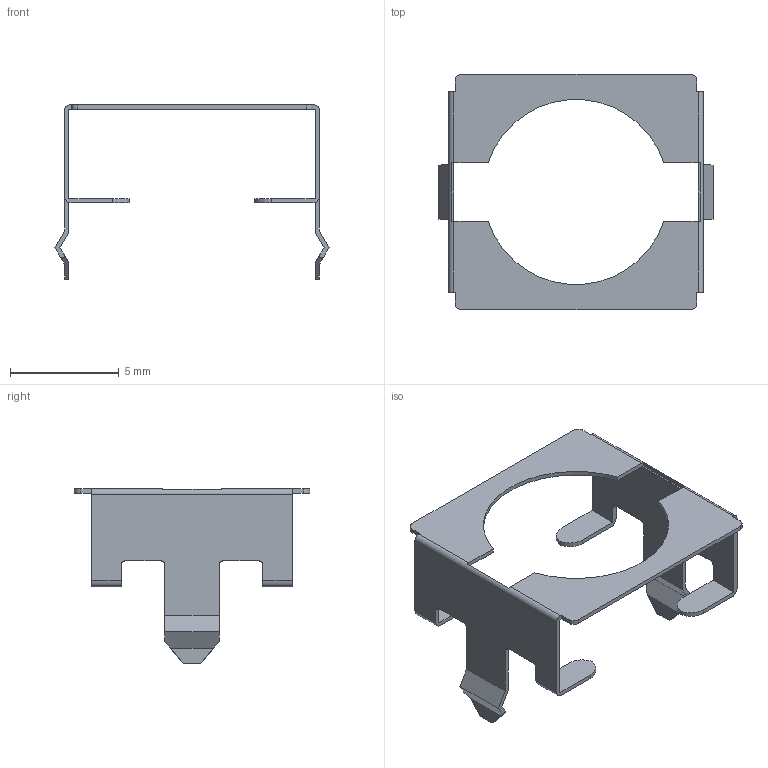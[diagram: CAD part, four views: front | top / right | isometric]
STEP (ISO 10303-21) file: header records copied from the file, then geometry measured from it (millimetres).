
FILE_DESCRIPTION(/* description */ ('STEP AP242 Edition 2','CAx-IF Rec.Pracs.---Representation and Presentation of Product Manufacturing Information (PMI)---4.0---2014-10-13','CAx-IF Rec.Pracs.---3D Tessellated Geometry---0.4---2014-09-14','2;1','CAx-IF Rec.Pracs.---User Defined Attributes---1.5---2016-08-15'),/* implementation_level */ '2;1');
FILE_NAME(/* name */ 'Assembly 1 - SW-TH_EC11E18244A5~SW-TH_EC11E18244A5-L11.7-W12.0-H24.5-P2.5-LS14.5~nxQB (14)',/* time_stamp */ '2026-04-02T09:55:29Z',/* author */ (''),/* organization */ (''),/* preprocessor_version */ 'ST-DEVELOPER v20',/* originating_system */ 'ONSHAPE BY PTC INC, 1.212',/* authorisation */ ' ');
FILE_SCHEMA (('AP242_MANAGED_MODEL_BASED_3D_ENGINEERING_MIM_LF { 1 0 10303 442 3 1 4 }'));
Length unit declared in the file: metre
Products named in the file (1): SW-TH_EC11E18244A5~SW-TH_EC11E18244A5-L11.7-W12.0-H24.5-P2.5-LS14.5~n
xQB
Bounding box: 12.58 x 10.8 x 8 mm (x, y, z)
Volume: 31.8 mm3; surface area: 346.7 mm2
Topology: 1 solids, 1 shells, 94 faces, 278 edges, 184 vertices
Faces by surface type: plane 64, cylinder 30
Entity records: 3820 total; most frequent: CARTESIAN_POINT 557, ORIENTED_EDGE 556, DIRECTION 532, EDGE_CURVE 278, LINE 214, VECTOR 214, VERTEX_POINT 184, AXIS2_PLACEMENT_3D 159
